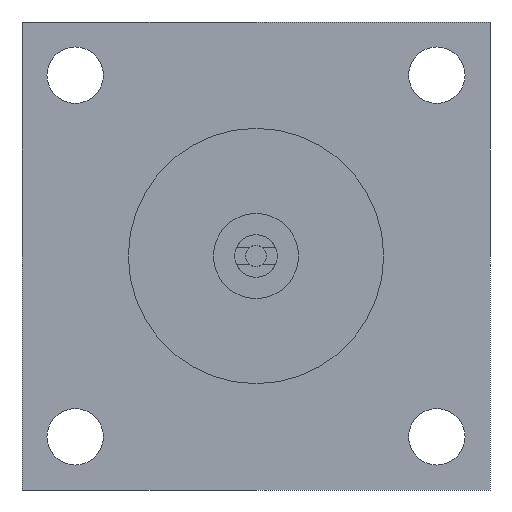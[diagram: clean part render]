
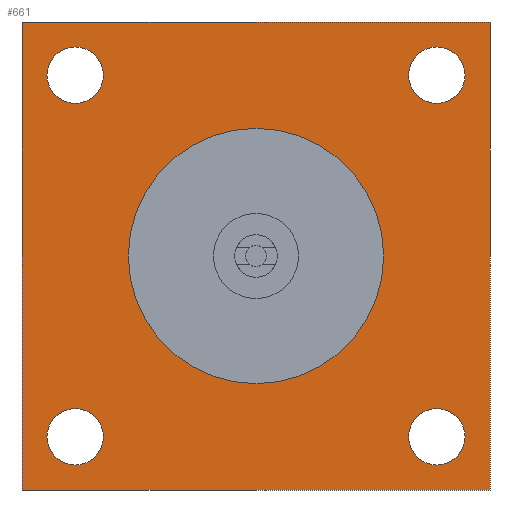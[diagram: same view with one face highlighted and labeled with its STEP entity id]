
A CAD part, left-side view. The second image highlights one B-rep face of the part: STEP entity #661.
In plain terms, the highlighted planar face has unit normal (-1, 0, 0).
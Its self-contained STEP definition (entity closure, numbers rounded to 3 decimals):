
#10 = CARTESIAN_POINT ( 'NONE',  ( -20., -85., 85. ) ) ;
#19 = LINE ( 'NONE', #1124, #1479 ) ;
#34 = CARTESIAN_POINT ( 'NONE',  ( -20., 85., -71.75 ) ) ;
#40 = CARTESIAN_POINT ( 'NONE',  ( -20., 0., -60. ) ) ;
#54 = VERTEX_POINT ( 'NONE', #1060 ) ;
#61 = AXIS2_PLACEMENT_3D ( 'NONE', #796, #1746, #527 ) ;
#109 = FACE_OUTER_BOUND ( 'NONE', #1116, .T. ) ;
#126 = EDGE_CURVE ( 'NONE', #352, #54, #590, .T. ) ;
#133 = VERTEX_POINT ( 'NONE', #1626 ) ;
#137 = DIRECTION ( 'NONE',  ( -1., 0., 0. ) ) ;
#142 = AXIS2_PLACEMENT_3D ( 'NONE', #501, #535, #571 ) ;
#158 = VECTOR ( 'NONE', #584, 1000. ) ;
#190 = EDGE_CURVE ( 'NONE', #603, #1310, #1642, .T. ) ;
#212 = LINE ( 'NONE', #793, #349 ) ;
#245 = DIRECTION ( 'NONE',  ( 0., 0., 1. ) ) ;
#249 = AXIS2_PLACEMENT_3D ( 'NONE', #1101, #1773, #968 ) ;
#263 = AXIS2_PLACEMENT_3D ( 'NONE', #393, #1233, #245 ) ;
#290 = EDGE_CURVE ( 'NONE', #662, #495, #1782, .T. ) ;
#296 = CARTESIAN_POINT ( 'NONE',  ( -20., 85., 98.25 ) ) ;
#317 = LINE ( 'NONE', #1246, #1744 ) ;
#349 = VECTOR ( 'NONE', #815, 1000. ) ;
#352 = VERTEX_POINT ( 'NONE', #296 ) ;
#393 = CARTESIAN_POINT ( 'NONE',  ( -20., 85., 85. ) ) ;
#401 = CIRCLE ( 'NONE', #1496, 13.25 ) ;
#404 = CARTESIAN_POINT ( 'NONE',  ( -20., -110., 110. ) ) ;
#473 = EDGE_LOOP ( 'NONE', ( #1204, #1354 ) ) ;
#477 = ORIENTED_EDGE ( 'NONE', *, *, #126, .F. ) ;
#495 = VERTEX_POINT ( 'NONE', #1404 ) ;
#496 = FACE_BOUND ( 'NONE', #1509, .T. ) ;
#501 = CARTESIAN_POINT ( 'NONE',  ( -20., -85., -85. ) ) ;
#513 = CARTESIAN_POINT ( 'NONE',  ( -20., 110., -110. ) ) ;
#516 = VERTEX_POINT ( 'NONE', #1480 ) ;
#527 = DIRECTION ( 'NONE',  ( 0., 0., 1. ) ) ;
#535 = DIRECTION ( 'NONE',  ( -1., 0., 0. ) ) ;
#539 = LINE ( 'NONE', #513, #158 ) ;
#571 = DIRECTION ( 'NONE',  ( 0., 0., 1. ) ) ;
#574 = ORIENTED_EDGE ( 'NONE', *, *, #1183, .F. ) ;
#575 = CARTESIAN_POINT ( 'NONE',  ( -20., 110., -110. ) ) ;
#577 = CARTESIAN_POINT ( 'NONE',  ( -20., -110., -110. ) ) ;
#580 = CIRCLE ( 'NONE', #263, 13.25 ) ;
#584 = DIRECTION ( 'NONE',  ( 0., -1., 0. ) ) ;
#590 = CIRCLE ( 'NONE', #61, 13.25 ) ;
#603 = VERTEX_POINT ( 'NONE', #1767 ) ;
#610 = DIRECTION ( 'NONE',  ( 0., 0., 1. ) ) ;
#649 = EDGE_CURVE ( 'NONE', #1395, #1334, #539, .T. ) ;
#661 = ADVANCED_FACE ( 'NONE', ( #877, #1240, #1641, #1597, #496, #109 ), #1203, .F. ) ;
#662 = VERTEX_POINT ( 'NONE', #1154 ) ;
#714 = EDGE_CURVE ( 'NONE', #903, #133, #1151, .T. ) ;
#722 = ORIENTED_EDGE ( 'NONE', *, *, #1302, .F. ) ;
#724 = CARTESIAN_POINT ( 'NONE',  ( -20., 85., -85. ) ) ;
#741 = CIRCLE ( 'NONE', #1578, 60. ) ;
#752 = ORIENTED_EDGE ( 'NONE', *, *, #777, .T. ) ;
#760 = EDGE_LOOP ( 'NONE', ( #477, #574 ) ) ;
#777 = EDGE_CURVE ( 'NONE', #1781, #1395, #317, .T. ) ;
#793 = CARTESIAN_POINT ( 'NONE',  ( -20., -110., 110. ) ) ;
#796 = CARTESIAN_POINT ( 'NONE',  ( -20., 85., 85. ) ) ;
#803 = ORIENTED_EDGE ( 'NONE', *, *, #1369, .F. ) ;
#806 = EDGE_CURVE ( 'NONE', #133, #903, #1358, .T. ) ;
#815 = DIRECTION ( 'NONE',  ( 0., 0., 1. ) ) ;
#837 = EDGE_LOOP ( 'NONE', ( #1786, #1668 ) ) ;
#845 = CARTESIAN_POINT ( 'NONE',  ( -20., 0., 0. ) ) ;
#847 = CARTESIAN_POINT ( 'NONE',  ( -20., 110., 110. ) ) ;
#865 = CARTESIAN_POINT ( 'NONE',  ( -20., -85., -85. ) ) ;
#877 = FACE_BOUND ( 'NONE', #837, .T. ) ;
#900 = AXIS2_PLACEMENT_3D ( 'NONE', #10, #1423, #1418 ) ;
#903 = VERTEX_POINT ( 'NONE', #1234 ) ;
#911 = CARTESIAN_POINT ( 'NONE',  ( -20., -85., 85. ) ) ;
#922 = CIRCLE ( 'NONE', #1696, 60. ) ;
#937 = DIRECTION ( 'NONE',  ( -1., 0., 0. ) ) ;
#941 = AXIS2_PLACEMENT_3D ( 'NONE', #845, #1182, #1229 ) ;
#953 = DIRECTION ( 'NONE',  ( 0., 0., 1. ) ) ;
#956 = DIRECTION ( 'NONE',  ( -1., 0., 0. ) ) ;
#968 = DIRECTION ( 'NONE',  ( 0., 0., 1. ) ) ;
#976 = CARTESIAN_POINT ( 'NONE',  ( -20., 0., 0. ) ) ;
#980 = ORIENTED_EDGE ( 'NONE', *, *, #1342, .T. ) ;
#985 = DIRECTION ( 'NONE',  ( -1., 0., 0. ) ) ;
#1050 = DIRECTION ( 'NONE',  ( 0., 0., -1. ) ) ;
#1052 = DIRECTION ( 'NONE',  ( 0., 0., 1. ) ) ;
#1060 = CARTESIAN_POINT ( 'NONE',  ( -20., 85., 71.75 ) ) ;
#1095 = CIRCLE ( 'NONE', #900, 13.25 ) ;
#1097 = AXIS2_PLACEMENT_3D ( 'NONE', #911, #956, #1052 ) ;
#1101 = CARTESIAN_POINT ( 'NONE',  ( -20., 85., -85. ) ) ;
#1116 = EDGE_LOOP ( 'NONE', ( #1734, #1776, #980, #752 ) ) ;
#1122 = VERTEX_POINT ( 'NONE', #404 ) ;
#1124 = CARTESIAN_POINT ( 'NONE',  ( -20., 110., 110. ) ) ;
#1131 = DIRECTION ( 'NONE',  ( 0., 0., -1. ) ) ;
#1151 = CIRCLE ( 'NONE', #1415, 13.25 ) ;
#1154 = CARTESIAN_POINT ( 'NONE',  ( -20., -85., 71.75 ) ) ;
#1182 = DIRECTION ( 'NONE',  ( 1., 0., 0. ) ) ;
#1183 = EDGE_CURVE ( 'NONE', #54, #352, #580, .T. ) ;
#1203 = PLANE ( 'NONE',  #941 ) ;
#1204 = ORIENTED_EDGE ( 'NONE', *, *, #714, .F. ) ;
#1229 = DIRECTION ( 'NONE',  ( 0., 0., -1. ) ) ;
#1233 = DIRECTION ( 'NONE',  ( -1., 0., 0. ) ) ;
#1234 = CARTESIAN_POINT ( 'NONE',  ( -20., -85., -71.75 ) ) ;
#1240 = FACE_BOUND ( 'NONE', #1284, .T. ) ;
#1246 = CARTESIAN_POINT ( 'NONE',  ( -20., 110., 110. ) ) ;
#1284 = EDGE_LOOP ( 'NONE', ( #803, #1487 ) ) ;
#1302 = EDGE_CURVE ( 'NONE', #1310, #603, #401, .T. ) ;
#1310 = VERTEX_POINT ( 'NONE', #34 ) ;
#1316 = VERTEX_POINT ( 'NONE', #40 ) ;
#1318 = EDGE_CURVE ( 'NONE', #516, #1316, #741, .T. ) ;
#1334 = VERTEX_POINT ( 'NONE', #577 ) ;
#1342 = EDGE_CURVE ( 'NONE', #1122, #1781, #19, .T. ) ;
#1354 = ORIENTED_EDGE ( 'NONE', *, *, #806, .F. ) ;
#1358 = CIRCLE ( 'NONE', #142, 13.25 ) ;
#1369 = EDGE_CURVE ( 'NONE', #495, #662, #1095, .T. ) ;
#1395 = VERTEX_POINT ( 'NONE', #575 ) ;
#1404 = CARTESIAN_POINT ( 'NONE',  ( -20., -85., 98.25 ) ) ;
#1415 = AXIS2_PLACEMENT_3D ( 'NONE', #865, #937, #953 ) ;
#1418 = DIRECTION ( 'NONE',  ( 0., 0., 1. ) ) ;
#1423 = DIRECTION ( 'NONE',  ( -1., 0., 0. ) ) ;
#1479 = VECTOR ( 'NONE', #1580, 1000. ) ;
#1480 = CARTESIAN_POINT ( 'NONE',  ( -20., 0., 60. ) ) ;
#1487 = ORIENTED_EDGE ( 'NONE', *, *, #290, .F. ) ;
#1496 = AXIS2_PLACEMENT_3D ( 'NONE', #724, #1712, #610 ) ;
#1509 = EDGE_LOOP ( 'NONE', ( #722, #1640 ) ) ;
#1578 = AXIS2_PLACEMENT_3D ( 'NONE', #1799, #137, #1131 ) ;
#1580 = DIRECTION ( 'NONE',  ( 0., 1., 0. ) ) ;
#1597 = FACE_BOUND ( 'NONE', #760, .T. ) ;
#1626 = CARTESIAN_POINT ( 'NONE',  ( -20., -85., -98.25 ) ) ;
#1632 = DIRECTION ( 'NONE',  ( 0., 0., -1. ) ) ;
#1640 = ORIENTED_EDGE ( 'NONE', *, *, #190, .F. ) ;
#1641 = FACE_BOUND ( 'NONE', #473, .T. ) ;
#1642 = CIRCLE ( 'NONE', #249, 13.25 ) ;
#1668 = ORIENTED_EDGE ( 'NONE', *, *, #1318, .F. ) ;
#1696 = AXIS2_PLACEMENT_3D ( 'NONE', #976, #985, #1050 ) ;
#1712 = DIRECTION ( 'NONE',  ( -1., 0., 0. ) ) ;
#1734 = ORIENTED_EDGE ( 'NONE', *, *, #649, .T. ) ;
#1744 = VECTOR ( 'NONE', #1632, 1000. ) ;
#1746 = DIRECTION ( 'NONE',  ( -1., 0., 0. ) ) ;
#1767 = CARTESIAN_POINT ( 'NONE',  ( -20., 85., -98.25 ) ) ;
#1773 = DIRECTION ( 'NONE',  ( -1., 0., 0. ) ) ;
#1774 = EDGE_CURVE ( 'NONE', #1334, #1122, #212, .T. ) ;
#1776 = ORIENTED_EDGE ( 'NONE', *, *, #1774, .T. ) ;
#1781 = VERTEX_POINT ( 'NONE', #847 ) ;
#1782 = CIRCLE ( 'NONE', #1097, 13.25 ) ;
#1786 = ORIENTED_EDGE ( 'NONE', *, *, #1802, .F. ) ;
#1799 = CARTESIAN_POINT ( 'NONE',  ( -20., 0., 0. ) ) ;
#1802 = EDGE_CURVE ( 'NONE', #1316, #516, #922, .T. ) ;
